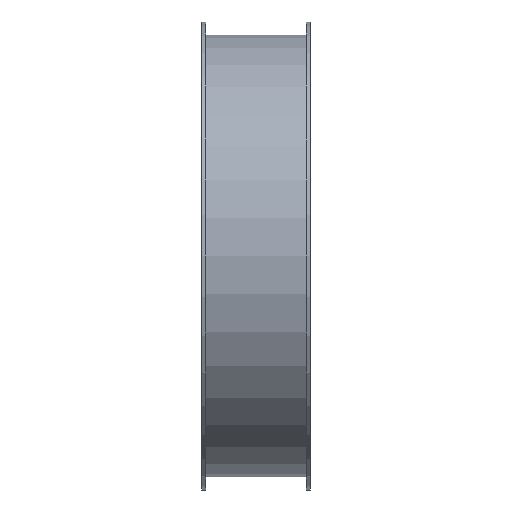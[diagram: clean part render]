
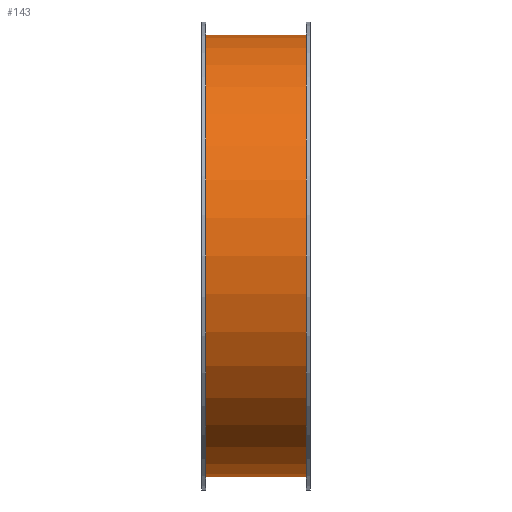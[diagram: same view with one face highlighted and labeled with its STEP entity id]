
A CAD part, front view. The second image highlights one B-rep face of the part: STEP entity #143.
In plain terms, the highlighted cylindrical face has radius 101.5 mm (diameter 203 mm), a full revolution.
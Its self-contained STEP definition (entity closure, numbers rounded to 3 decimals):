
#112=CARTESIAN_POINT('',(16.119,2.817,0.0));
#113=VERTEX_POINT('',#112);
#114=CARTESIAN_POINT('',(16.119,104.317,0.0));
#115=DIRECTION('',(-1.0,0.0,0.0));
#116=DIRECTION('',(0.0,-1.0,0.0));
#117=AXIS2_PLACEMENT_3D('',#114,#115,#116);
#118=CIRCLE('',#117,101.5);
#119=EDGE_CURVE('',#113,#113,#118,.T.);
#124=CARTESIAN_POINT('',(-6.881,104.317,0.0));
#125=DIRECTION('',(-1.0,0.,0.0));
#126=DIRECTION('',(0.0,-1.0,0.0));
#127=AXIS2_PLACEMENT_3D('',#124,#125,#126);
#128=CYLINDRICAL_SURFACE('',#127,101.5);
#129=CARTESIAN_POINT('',(-29.881,2.817,0.0));
#130=VERTEX_POINT('',#129);
#131=CARTESIAN_POINT('',(-29.881,104.317,0.0));
#132=DIRECTION('',(-1.0,0.0,0.0));
#133=DIRECTION('',(0.0,-1.0,0.0));
#134=AXIS2_PLACEMENT_3D('',#131,#132,#133);
#135=CIRCLE('',#134,101.5);
#136=EDGE_CURVE('',#130,#130,#135,.T.);
#137=ORIENTED_EDGE('',*,*,#136,.F.);
#138=EDGE_LOOP('',(#137));
#139=FACE_OUTER_BOUND('',#138,.T.);
#140=ORIENTED_EDGE('',*,*,#119,.T.);
#141=EDGE_LOOP('',(#140));
#142=FACE_BOUND('',#141,.T.);
#143=ADVANCED_FACE('',(#139,#142),#128,.T.);
